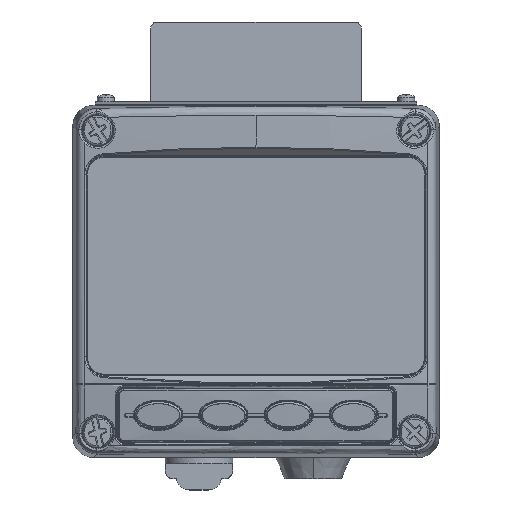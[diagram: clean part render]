
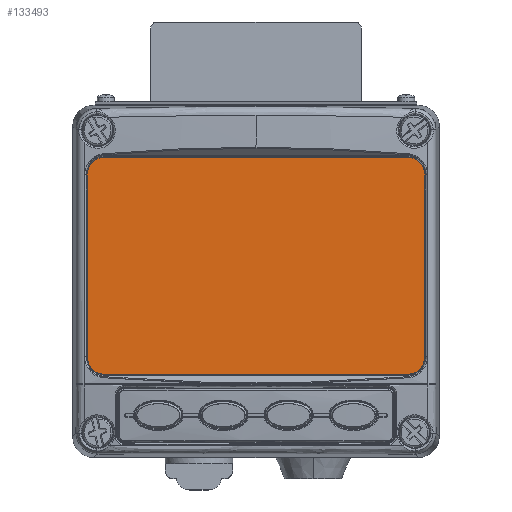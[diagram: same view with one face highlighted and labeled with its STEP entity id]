
A CAD part, top view. The second image highlights one B-rep face of the part: STEP entity #133493.
In plain terms, the highlighted planar face has unit normal (0, 0, 1).
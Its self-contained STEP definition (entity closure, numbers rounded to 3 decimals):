
#1383 = CARTESIAN_POINT ( 'NONE',  ( 56.2, -25.45, 34.91 ) ) ;
#2807 = DIRECTION ( 'NONE',  ( -1., 0., 0. ) ) ;
#2970 = LINE ( 'NONE', #148212, #99654 ) ;
#5508 = VERTEX_POINT ( 'NONE', #86943 ) ;
#7398 = EDGE_CURVE ( 'NONE', #154702, #5508, #34235, .T. ) ;
#10765 = CIRCLE ( 'NONE', #135655, 6. ) ;
#14504 = EDGE_CURVE ( 'NONE', #45881, #146534, #2970, .T. ) ;
#22489 = AXIS2_PLACEMENT_3D ( 'NONE', #125852, #50267, #138547 ) ;
#28261 = VECTOR ( 'NONE', #51520, 1000. ) ;
#29283 = AXIS2_PLACEMENT_3D ( 'NONE', #72476, #160838, #85161 ) ;
#29797 = EDGE_CURVE ( 'NONE', #85461, #112090, #95412, .T. ) ;
#30053 = ORIENTED_EDGE ( 'NONE', *, *, #127573, .T. ) ;
#30966 = CARTESIAN_POINT ( 'NONE',  ( 50.2, 40.95, 34.91 ) ) ;
#34058 = CARTESIAN_POINT ( 'NONE',  ( -56.2, 34.95, 34.91 ) ) ;
#34224 = CARTESIAN_POINT ( 'NONE',  ( -50.2, -31.45, 34.91 ) ) ;
#34235 = LINE ( 'NONE', #34224, #67688 ) ;
#35961 = CARTESIAN_POINT ( 'NONE',  ( -50.2, -31.45, 34.91 ) ) ;
#38877 = VECTOR ( 'NONE', #2807, 1000. ) ;
#41214 = CARTESIAN_POINT ( 'NONE',  ( -56.2, -25.45, 34.91 ) ) ;
#42587 = ORIENTED_EDGE ( 'NONE', *, *, #119862, .T. ) ;
#45881 = VERTEX_POINT ( 'NONE', #34058 ) ;
#48816 = PLANE ( 'NONE',  #155008 ) ;
#49242 = CARTESIAN_POINT ( 'NONE',  ( 50.2, 34.95, 34.91 ) ) ;
#50267 = DIRECTION ( 'NONE',  ( 0., 0., 1. ) ) ;
#51520 = DIRECTION ( 'NONE',  ( 0., 1., 0. ) ) ;
#52691 = CARTESIAN_POINT ( 'NONE',  ( -50.2, 34.95, 34.91 ) ) ;
#53408 = EDGE_CURVE ( 'NONE', #134742, #110023, #106063, .T. ) ;
#54337 = ORIENTED_EDGE ( 'NONE', *, *, #94341, .T. ) ;
#61873 = DIRECTION ( 'NONE',  ( -1., 0., 0. ) ) ;
#61976 = CARTESIAN_POINT ( 'NONE',  ( -50.2, -25.45, 34.91 ) ) ;
#65298 = DIRECTION ( 'NONE',  ( -1., 0., 0. ) ) ;
#67688 = VECTOR ( 'NONE', #135233, 1000. ) ;
#68872 = CARTESIAN_POINT ( 'NONE',  ( 56.2, -25.45, 34.91 ) ) ;
#72476 = CARTESIAN_POINT ( 'NONE',  ( -50.2, -25.45, 34.91 ) ) ;
#74617 = DIRECTION ( 'NONE',  ( -1., 0., 0. ) ) ;
#83659 = EDGE_LOOP ( 'NONE', ( #30053, #121229, #42587, #112265, #54337, #134176, #158177, #159092 ) ) ;
#84733 = DIRECTION ( 'NONE',  ( 0., -1., 0. ) ) ;
#85161 = DIRECTION ( 'NONE',  ( -1., 0., 0. ) ) ;
#85246 = EDGE_CURVE ( 'NONE', #110023, #45881, #10765, .T. ) ;
#85461 = VERTEX_POINT ( 'NONE', #68872 ) ;
#86943 = CARTESIAN_POINT ( 'NONE',  ( 50.2, -31.45, 34.91 ) ) ;
#88793 = CARTESIAN_POINT ( 'NONE',  ( 56.2, 34.95, 34.91 ) ) ;
#90968 = CARTESIAN_POINT ( 'NONE',  ( -50.2, 40.95, 34.91 ) ) ;
#94341 = EDGE_CURVE ( 'NONE', #112090, #134742, #150086, .T. ) ;
#94568 = AXIS2_PLACEMENT_3D ( 'NONE', #49242, #137520, #61873 ) ;
#95412 = LINE ( 'NONE', #1383, #28261 ) ;
#99654 = VECTOR ( 'NONE', #84733, 1000. ) ;
#106063 = LINE ( 'NONE', #90968, #38877 ) ;
#110023 = VERTEX_POINT ( 'NONE', #163485 ) ;
#112090 = VERTEX_POINT ( 'NONE', #88793 ) ;
#112265 = ORIENTED_EDGE ( 'NONE', *, *, #29797, .T. ) ;
#119862 = EDGE_CURVE ( 'NONE', #5508, #85461, #148568, .T. ) ;
#121229 = ORIENTED_EDGE ( 'NONE', *, *, #7398, .T. ) ;
#121689 = CIRCLE ( 'NONE', #29283, 6. ) ;
#124418 = FACE_OUTER_BOUND ( 'NONE', #83659, .T. ) ;
#125852 = CARTESIAN_POINT ( 'NONE',  ( 50.2, -25.45, 34.91 ) ) ;
#127573 = EDGE_CURVE ( 'NONE', #146534, #154702, #121689, .T. ) ;
#133493 = ADVANCED_FACE ( 'NONE', ( #124418 ), #48816, .F. ) ;
#134176 = ORIENTED_EDGE ( 'NONE', *, *, #53408, .T. ) ;
#134742 = VERTEX_POINT ( 'NONE', #30966 ) ;
#135233 = DIRECTION ( 'NONE',  ( 1., 0., 0. ) ) ;
#135655 = AXIS2_PLACEMENT_3D ( 'NONE', #52691, #140951, #65298 ) ;
#137520 = DIRECTION ( 'NONE',  ( 0., 0., 1. ) ) ;
#138547 = DIRECTION ( 'NONE',  ( 1., 0., 0. ) ) ;
#140951 = DIRECTION ( 'NONE',  ( 0., 0., 1. ) ) ;
#146534 = VERTEX_POINT ( 'NONE', #41214 ) ;
#148212 = CARTESIAN_POINT ( 'NONE',  ( -56.2, -25.45, 34.91 ) ) ;
#148568 = CIRCLE ( 'NONE', #22489, 6. ) ;
#150086 = CIRCLE ( 'NONE', #94568, 6. ) ;
#150261 = DIRECTION ( 'NONE',  ( 0., 0., -1. ) ) ;
#154702 = VERTEX_POINT ( 'NONE', #35961 ) ;
#155008 = AXIS2_PLACEMENT_3D ( 'NONE', #61976, #150261, #74617 ) ;
#158177 = ORIENTED_EDGE ( 'NONE', *, *, #85246, .T. ) ;
#159092 = ORIENTED_EDGE ( 'NONE', *, *, #14504, .T. ) ;
#160838 = DIRECTION ( 'NONE',  ( 0., 0., 1. ) ) ;
#163485 = CARTESIAN_POINT ( 'NONE',  ( -50.2, 40.95, 34.91 ) ) ;
